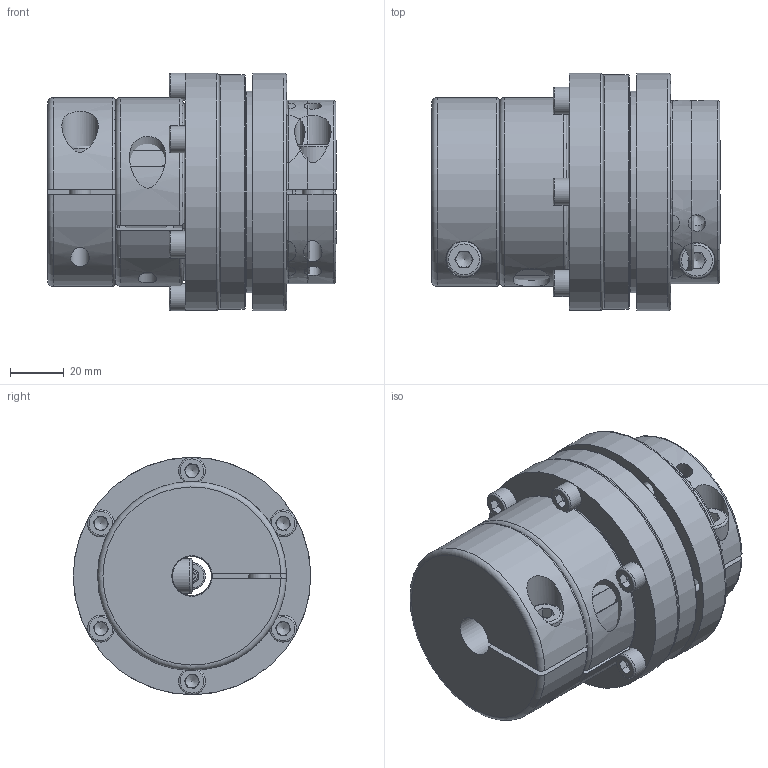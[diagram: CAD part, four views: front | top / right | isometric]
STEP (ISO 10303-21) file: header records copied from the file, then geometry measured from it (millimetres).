
FILE_DESCRIPTION( ( 'Unknown' ), '1' );
FILE_NAME( 'F:/JAKOB-STEP+IGES-Dateien/STEP-Dateien/SKB-EK/SKB-EK 150.stp', 'Unknown', ( 'Unknown' ), ( 'Unknown' ), 'XStep 1.0', 'Unknown', ' ' );
FILE_SCHEMA( ( 'CONFIG_CONTROL_DESIGN' ) );
Length unit declared in the file: millimetre
Products named in the file (11): SKB 150; Assem1; 23917262; KT102264; KT100967; KT101716; KT100051; Elastomerteil 3; kt101732
Bounding box: 107 x 88 x 88 mm (x, y, z)
Surface area: 289789.4 mm2
Topology: 29 solids, 29 shells, 1297 faces, 3627 edges, 2317 vertices
Faces by surface type: plane 450, cylinder 434, cone 200, torus 168, sphere 45
Full cylindrical faces by diameter (mm): 2 x6, 4.2 x3, 5 x37, 6 x7, 6.4 x12, 6.5 x9, 6.8 x5, 8 x5, 8.5 x3, 8.6 x2, 10 x7, 13 x5, 13.5 x5, 14.5 x2, 17 x3, 30 x4, 40.5 x2, 42.5 x3, 44.8 x3, 45 x6, 46 x3, 49 x3, 52.3 x6, 60.8 x6, 65 x2, 68 x8, 72 x6, 74 x3, 74.8 x3, 83 x3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
Entity records: 18026 total; most frequent: CARTESIAN_POINT 5552, DIRECTION 2506, ORIENTED_EDGE 2420, EDGE_CURVE 1210, AXIS2_PLACEMENT_3D 1077, VERTEX_POINT 829, EDGE_LOOP 680, CIRCLE 570
